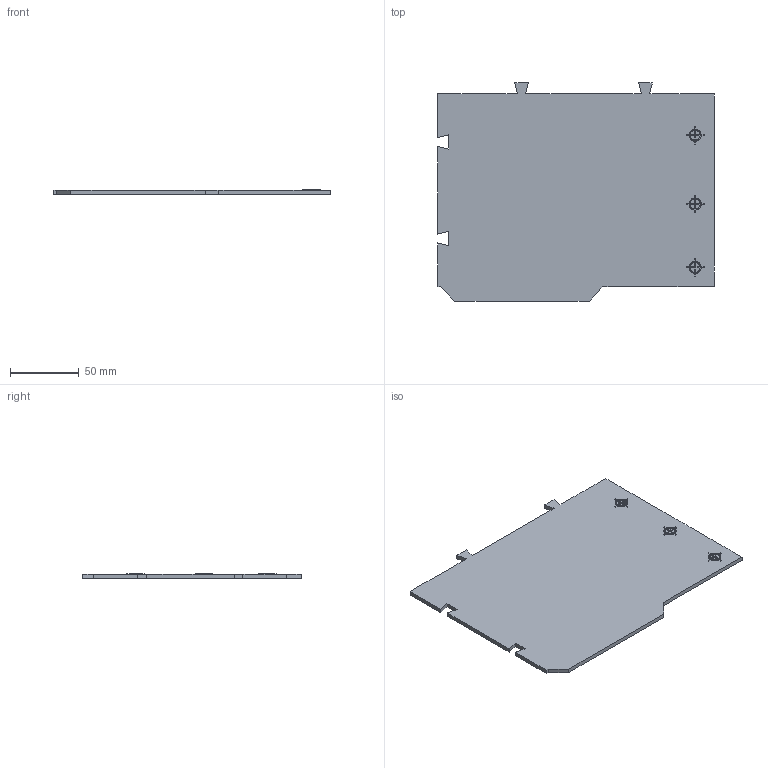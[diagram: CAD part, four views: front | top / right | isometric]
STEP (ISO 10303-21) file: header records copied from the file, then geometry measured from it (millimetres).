
FILE_DESCRIPTION(('q2_plate280_tile_RF'),'2;1');
FILE_NAME('q2_plate280_tile_RF.step','2026-11-05T00:00:00',('rayaanatif'),(''),'qs-cad','qs-cad','');
FILE_SCHEMA(('AUTOMOTIVE_DESIGN { 1 0 10303 214 1 1 1 1 }'));
Length unit declared in the file: millimetre
Products named in the file (1): q2_plate280_tile_RF
Bounding box: 201 x 158.5 x 3.4 mm (x, y, z)
Volume: 87671.1 mm3; surface area: 61094.6 mm2
Topology: 1 solids, 1 shells, 497 faces, 1802 edges, 1326 vertices
Faces by surface type: plane 497
Entity records: 17496 total; most frequent: ORIENTED_EDGE 3604, DIRECTION 2798, CARTESIAN_POINT 1824, VECTOR 1802, LINE 1802, EDGE_CURVE 1802, VERTEX_POINT 1326, EDGE_LOOP 516
